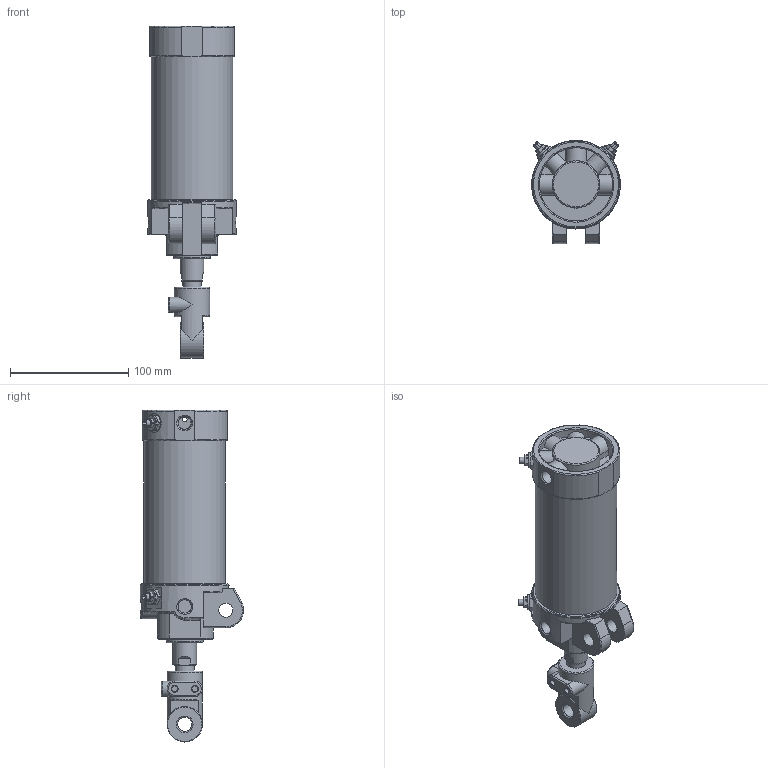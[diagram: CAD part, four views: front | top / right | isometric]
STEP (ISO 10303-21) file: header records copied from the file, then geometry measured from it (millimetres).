
FILE_DESCRIPTION((''),'2;1');
FILE_NAME('I:\3D電子目錄\氣缸\DCK\DCK\DCK-1A-63x75-I.stp','2008-02-26T15:24:24',('Administrator'),(''),'Autodesk Inventor 11','Autodesk Inventor 11','');
FILE_SCHEMA(('AUTOMOTIVE_DESIGN { 1 0 10303 214 1 1 1 1 }'));
Length unit declared in the file: millimetre
Products named in the file (6): DCK-1A-63-I; DCK-1B-63-I; 緩衝針; 緩衝針-1; 緩衝針-201; 緩衝針-3
Assembly tree (8 placements, depth 3):
  DCK-1A-63-I
    DCK-1B-63-I
    緩衝針  x4
      緩衝針-1
      緩衝針-201
      緩衝針-3
Bounding box: 75 x 87.29 x 281 mm (x, y, z)
Volume: 366737.1 mm3; surface area: 133211.6 mm2
Topology: 17 solids, 17 shells, 639 faces, 1407 edges, 875 vertices
Faces by surface type: plane 233, cylinder 179, cone 139, torus 49, bspline 39
Full cylindrical faces by diameter (mm): 2 x1, 3 x2, 3.8 x2, 4 x6, 4.6 x4, 5 x8, 5.1 x4, 5.2 x12, 5.5 x4, 7 x1, 7.25 x1, 7.9 x4, 8 x2, 11.3 x3, 12 x3, 12.8 x4, 16 x3, 20 x1, 21 x1, 22 x2, 23 x1, 24.7 x1, 26 x1, 27 x1, 28 x1, 29 x1, 30 x2, 31 x1, 33 x1, 62 x1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
Entity records: 13902 total; most frequent: CARTESIAN_POINT 5736, DIRECTION 1661, ORIENTED_EDGE 1492, EDGE_CURVE 746, AXIS2_PLACEMENT_3D 726, EDGE_LOOP 584, VERTEX_POINT 538, FACE_OUTER_BOUND 390
